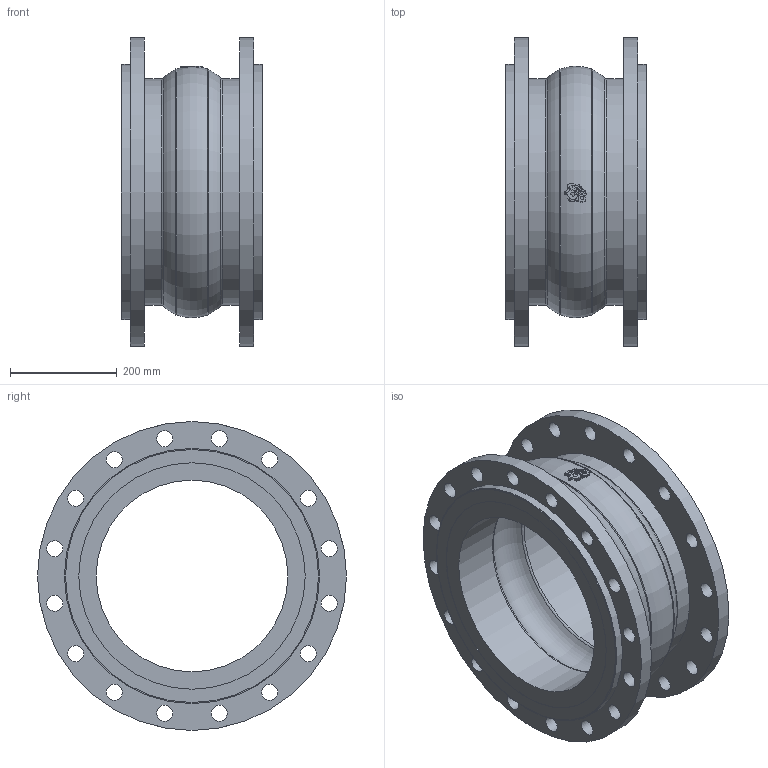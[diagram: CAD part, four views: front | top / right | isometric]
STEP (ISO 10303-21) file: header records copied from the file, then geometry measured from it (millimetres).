
FILE_DESCRIPTION(('STEP AP203'), '1');
FILE_NAME('3D_501-400-EPDM-FF', '', ('UNSPECIFIED'), ('UNSPECIFIED'), 'C3D Converter', 'C3D Toolkit', '');
FILE_SCHEMA(('CONFIG_CONTROL_DESIGN'));
Length unit declared in the file: millimetre
Bounding box: 265 x 580 x 580 mm (x, y, z)
Volume: 18728714.9 mm3; surface area: 1357719.4 mm2
Topology: 9 solids, 9 shells, 895 faces, 2627 edges, 1758 vertices
Faces by surface type: plane 839, cylinder 42, torus 12, cone 2
Full cylindrical faces by diameter (mm): 30 x32, 360 x2, 425 x4, 475 x2, 479 x1, 580 x1
Entity records: 36372 total; most frequent: CARTESIAN_POINT 5225, ORIENTED_EDGE 5142, DIRECTION 4495, EDGE_CURVE 2571, LINE 2439, VECTOR 2439, VERTEX_POINT 1758, EDGE_LOOP 1037
